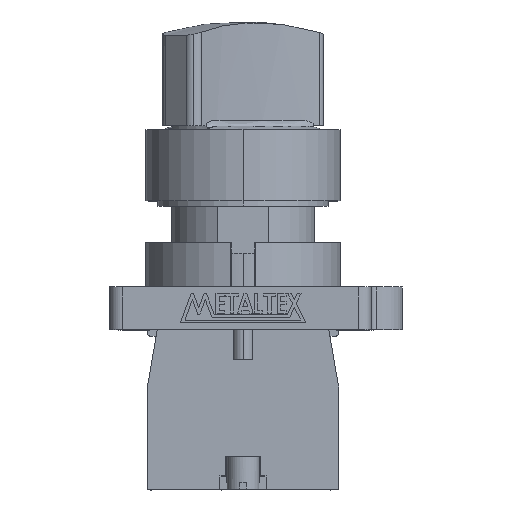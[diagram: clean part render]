
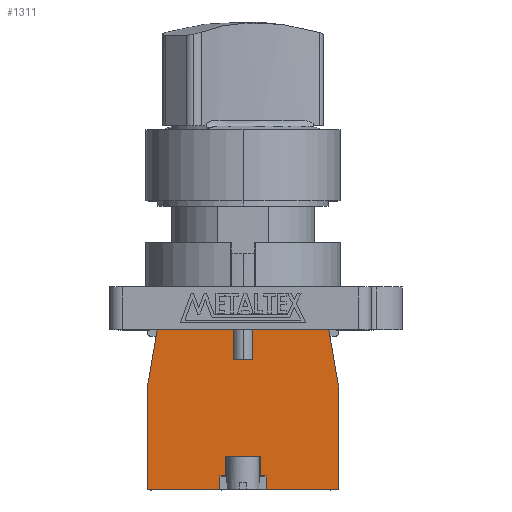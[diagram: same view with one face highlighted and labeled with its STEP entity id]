
A CAD part, top view. The second image highlights one B-rep face of the part: STEP entity #1311.
In plain terms, the highlighted planar face has unit normal (0, 0, 1).
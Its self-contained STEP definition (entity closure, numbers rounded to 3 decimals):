
#802 = EDGE_CURVE ( 'NONE', #8731, #8756, #1665, .T. ) ;
#803 = EDGE_CURVE ( 'NONE', #8772, #8681, #1668, .T. ) ;
#804 = EDGE_CURVE ( 'NONE', #8682, #8681, #1671, .T. ) ;
#805 = EDGE_CURVE ( 'NONE', #8682, #8735, #1674, .T. ) ;
#806 = EDGE_CURVE ( 'NONE', #8683, #8734, #1677, .T. ) ;
#807 = EDGE_CURVE ( 'NONE', #8684, #8683, #1680, .T. ) ;
#808 = EDGE_CURVE ( 'NONE', #8768, #8684, #1683, .T. ) ;
#809 = EDGE_CURVE ( 'NONE', #8729, #8758, #1686, .T. ) ;
#810 = EDGE_CURVE ( 'NONE', #8759, #8725, #1689, .T. ) ;
#814 = EDGE_CURVE ( 'NONE', #8771, #8826, #1701, .T. ) ;
#867 = EDGE_CURVE ( 'NONE', #8725, #8767, #1860, .T. ) ;
#872 = EDGE_CURVE ( 'NONE', #8731, #8729, #1875, .T. ) ;
#878 = EDGE_CURVE ( 'NONE', #8735, #8734, #1893, .T. ) ;
#912 = EDGE_CURVE ( 'NONE', #8827, #8756, #1995, .T. ) ;
#916 = EDGE_CURVE ( 'NONE', #8758, #8759, #2007, .T. ) ;
#928 = EDGE_CURVE ( 'NONE', #8767, #8768, #2043, .T. ) ;
#931 = EDGE_CURVE ( 'NONE', #8772, #8771, #2052, .T. ) ;
#987 = EDGE_CURVE ( 'NONE', #8826, #8827, #2516, .T. ) ;
#1311 = ADVANCED_FACE ( 'NONE', ( #10464 ), #11859, .T. ) ;
#1665 = LINE ( 'NONE', #1666, #10836 ) ;
#1666 = CARTESIAN_POINT ( 'NONE',  ( 1.5, 19.6, 7.45 ) ) ;
#1667 = DIRECTION ( 'NONE',  ( 0., 1., 0. ) ) ;
#1668 = LINE ( 'NONE', #1669, #10811 ) ;
#1669 = CARTESIAN_POINT ( 'NONE',  ( 3.5, 0., 7.45 ) ) ;
#1670 = DIRECTION ( 'NONE',  ( 0., 1., 0. ) ) ;
#1671 = LINE ( 'NONE', #1672, #11088 ) ;
#1672 = CARTESIAN_POINT ( 'NONE',  ( 0., 2., 7.45 ) ) ;
#1673 = DIRECTION ( 'NONE',  ( 1., 0., 0. ) ) ;
#1674 = LINE ( 'NONE', #1675, #10421 ) ;
#1675 = CARTESIAN_POINT ( 'NONE',  ( 2.6, 0., 7.45 ) ) ;
#1676 = DIRECTION ( 'NONE',  ( 0., 1., 0. ) ) ;
#1677 = LINE ( 'NONE', #1678, #10328 ) ;
#1678 = CARTESIAN_POINT ( 'NONE',  ( -2.6, 0., 7.45 ) ) ;
#1679 = DIRECTION ( 'NONE',  ( 0., 1., 0. ) ) ;
#1680 = LINE ( 'NONE', #1681, #10212 ) ;
#1681 = CARTESIAN_POINT ( 'NONE',  ( 0., 2., 7.45 ) ) ;
#1682 = DIRECTION ( 'NONE',  ( 1., 0., 0. ) ) ;
#1683 = LINE ( 'NONE', #1684, #10292 ) ;
#1684 = CARTESIAN_POINT ( 'NONE',  ( -3.5, 0., 7.45 ) ) ;
#1685 = DIRECTION ( 'NONE',  ( 0., 1., 0. ) ) ;
#1686 = LINE ( 'NONE', #1687, #10178 ) ;
#1687 = CARTESIAN_POINT ( 'NONE',  ( -1.5, 19.6, 7.45 ) ) ;
#1688 = DIRECTION ( 'NONE',  ( 0., 1., 0. ) ) ;
#1689 = LINE ( 'NONE', #1690, #11271 ) ;
#1690 = CARTESIAN_POINT ( 'NONE',  ( -13., 24.2, 7.45 ) ) ;
#1691 = DIRECTION ( 'NONE',  ( -0.17, -0.985, 0. ) ) ;
#1701 = LINE ( 'NONE', #1702, #10311 ) ;
#1702 = CARTESIAN_POINT ( 'NONE',  ( 14.5, 0., 7.45 ) ) ;
#1703 = DIRECTION ( 'NONE',  ( 0., 1., 0. ) ) ;
#1860 = LINE ( 'NONE', #1861, #10718 ) ;
#1861 = CARTESIAN_POINT ( 'NONE',  ( -14.5, 15.5, 7.45 ) ) ;
#1862 = DIRECTION ( 'NONE',  ( 0., -1., 0. ) ) ;
#1875 = LINE ( 'NONE', #1876, #10780 ) ;
#1876 = CARTESIAN_POINT ( 'NONE',  ( 0., 19.6, 7.45 ) ) ;
#1877 = DIRECTION ( 'NONE',  ( -1., 0., 0. ) ) ;
#1893 = LINE ( 'NONE', #1894, #10284 ) ;
#1894 = CARTESIAN_POINT ( 'NONE',  ( 0., 5., 7.45 ) ) ;
#1895 = DIRECTION ( 'NONE',  ( -1., 0., 0. ) ) ;
#1995 = LINE ( 'NONE', #1996, #10342 ) ;
#1996 = CARTESIAN_POINT ( 'NONE',  ( 13., 24.2, 7.45 ) ) ;
#1997 = DIRECTION ( 'NONE',  ( -1., 0., 0. ) ) ;
#2007 = LINE ( 'NONE', #2008, #11113 ) ;
#2008 = CARTESIAN_POINT ( 'NONE',  ( 13., 24.2, 7.45 ) ) ;
#2009 = DIRECTION ( 'NONE',  ( -1., 0., 0. ) ) ;
#2043 = LINE ( 'NONE', #2044, #10568 ) ;
#2044 = CARTESIAN_POINT ( 'NONE',  ( -14.5, 0., 7.45 ) ) ;
#2045 = DIRECTION ( 'NONE',  ( 1., 0., 0. ) ) ;
#2052 = LINE ( 'NONE', #2053, #10533 ) ;
#2053 = CARTESIAN_POINT ( 'NONE',  ( -14.5, 0., 7.45 ) ) ;
#2054 = DIRECTION ( 'NONE',  ( 1., 0., 0. ) ) ;
#2516 = LINE ( 'NONE', #2517, #10636 ) ;
#2517 = CARTESIAN_POINT ( 'NONE',  ( 14.5, 15.5, 7.45 ) ) ;
#2518 = DIRECTION ( 'NONE',  ( -0.17, 0.985, 0. ) ) ;
#8265 = ORIENTED_EDGE ( 'NONE', *, *, #810, .T. ) ;
#8266 = ORIENTED_EDGE ( 'NONE', *, *, #809, .T. ) ;
#8267 = ORIENTED_EDGE ( 'NONE', *, *, #867, .T. ) ;
#8268 = ORIENTED_EDGE ( 'NONE', *, *, #916, .T. ) ;
#8269 = ORIENTED_EDGE ( 'NONE', *, *, #928, .T. ) ;
#8270 = ORIENTED_EDGE ( 'NONE', *, *, #808, .T. ) ;
#8271 = ORIENTED_EDGE ( 'NONE', *, *, #806, .T. ) ;
#8272 = ORIENTED_EDGE ( 'NONE', *, *, #807, .T. ) ;
#8273 = ORIENTED_EDGE ( 'NONE', *, *, #878, .F. ) ;
#8274 = ORIENTED_EDGE ( 'NONE', *, *, #805, .F. ) ;
#8275 = ORIENTED_EDGE ( 'NONE', *, *, #803, .F. ) ;
#8276 = ORIENTED_EDGE ( 'NONE', *, *, #804, .T. ) ;
#8277 = ORIENTED_EDGE ( 'NONE', *, *, #931, .T. ) ;
#8278 = ORIENTED_EDGE ( 'NONE', *, *, #987, .T. ) ;
#8279 = ORIENTED_EDGE ( 'NONE', *, *, #814, .T. ) ;
#8280 = ORIENTED_EDGE ( 'NONE', *, *, #912, .T. ) ;
#8281 = ORIENTED_EDGE ( 'NONE', *, *, #802, .F. ) ;
#8283 = ORIENTED_EDGE ( 'NONE', *, *, #872, .T. ) ;
#8681 = VERTEX_POINT ( 'NONE', #13550 ) ;
#8682 = VERTEX_POINT ( 'NONE', #13551 ) ;
#8683 = VERTEX_POINT ( 'NONE', #13552 ) ;
#8684 = VERTEX_POINT ( 'NONE', #13553 ) ;
#8725 = VERTEX_POINT ( 'NONE', #13594 ) ;
#8729 = VERTEX_POINT ( 'NONE', #13598 ) ;
#8731 = VERTEX_POINT ( 'NONE', #13600 ) ;
#8734 = VERTEX_POINT ( 'NONE', #13603 ) ;
#8735 = VERTEX_POINT ( 'NONE', #13604 ) ;
#8756 = VERTEX_POINT ( 'NONE', #13625 ) ;
#8758 = VERTEX_POINT ( 'NONE', #13627 ) ;
#8759 = VERTEX_POINT ( 'NONE', #13628 ) ;
#8767 = VERTEX_POINT ( 'NONE', #13636 ) ;
#8768 = VERTEX_POINT ( 'NONE', #13637 ) ;
#8771 = VERTEX_POINT ( 'NONE', #13640 ) ;
#8772 = VERTEX_POINT ( 'NONE', #13641 ) ;
#8826 = VERTEX_POINT ( 'NONE', #13695 ) ;
#8827 = VERTEX_POINT ( 'NONE', #13696 ) ;
#9862 = EDGE_LOOP ( 'NONE', ( #8266, #8268, #8265, #8267, #8269, #8270, #8272, #8271, #8273, #8274, #8276, #8275, #8277, #8279, #8278, #8280, #8281, #8283 ) ) ;
#10178 = VECTOR ( 'NONE', #1688, 1000. ) ;
#10212 = VECTOR ( 'NONE', #1682, 1000. ) ;
#10284 = VECTOR ( 'NONE', #1895, 1000. ) ;
#10292 = VECTOR ( 'NONE', #1685, 1000. ) ;
#10311 = VECTOR ( 'NONE', #1703, 1000. ) ;
#10328 = VECTOR ( 'NONE', #1679, 1000. ) ;
#10342 = VECTOR ( 'NONE', #1997, 1000. ) ;
#10421 = VECTOR ( 'NONE', #1676, 1000. ) ;
#10458 = AXIS2_PLACEMENT_3D ( 'NONE', #11860, #11861, #11862 ) ;
#10464 = FACE_OUTER_BOUND ( 'NONE', #9862, .T. ) ;
#10533 = VECTOR ( 'NONE', #2054, 1000. ) ;
#10568 = VECTOR ( 'NONE', #2045, 1000. ) ;
#10636 = VECTOR ( 'NONE', #2518, 1000. ) ;
#10718 = VECTOR ( 'NONE', #1862, 1000. ) ;
#10780 = VECTOR ( 'NONE', #1877, 1000. ) ;
#10811 = VECTOR ( 'NONE', #1670, 1000. ) ;
#10836 = VECTOR ( 'NONE', #1667, 1000. ) ;
#11088 = VECTOR ( 'NONE', #1673, 1000. ) ;
#11113 = VECTOR ( 'NONE', #2009, 1000. ) ;
#11271 = VECTOR ( 'NONE', #1691, 1000. ) ;
#11859 = PLANE ( 'NONE',  #10458 ) ;
#11860 = CARTESIAN_POINT ( 'NONE',  ( 0., 0., 7.45 ) ) ;
#11861 = DIRECTION ( 'NONE',  ( 0., 0., 1. ) ) ;
#11862 = DIRECTION ( 'NONE',  ( 1., 0., 0. ) ) ;
#13550 = CARTESIAN_POINT ( 'NONE',  ( 3.5, 2., 7.45 ) ) ;
#13551 = CARTESIAN_POINT ( 'NONE',  ( 2.6, 2., 7.45 ) ) ;
#13552 = CARTESIAN_POINT ( 'NONE',  ( -2.6, 2., 7.45 ) ) ;
#13553 = CARTESIAN_POINT ( 'NONE',  ( -3.5, 2., 7.45 ) ) ;
#13594 = CARTESIAN_POINT ( 'NONE',  ( -14.5, 15.5, 7.45 ) ) ;
#13598 = CARTESIAN_POINT ( 'NONE',  ( -1.5, 19.6, 7.45 ) ) ;
#13600 = CARTESIAN_POINT ( 'NONE',  ( 1.5, 19.6, 7.45 ) ) ;
#13603 = CARTESIAN_POINT ( 'NONE',  ( -2.6, 5., 7.45 ) ) ;
#13604 = CARTESIAN_POINT ( 'NONE',  ( 2.6, 5., 7.45 ) ) ;
#13625 = CARTESIAN_POINT ( 'NONE',  ( 1.5, 24.2, 7.45 ) ) ;
#13627 = CARTESIAN_POINT ( 'NONE',  ( -1.5, 24.2, 7.45 ) ) ;
#13628 = CARTESIAN_POINT ( 'NONE',  ( -13., 24.2, 7.45 ) ) ;
#13636 = CARTESIAN_POINT ( 'NONE',  ( -14.5, 0., 7.45 ) ) ;
#13637 = CARTESIAN_POINT ( 'NONE',  ( -3.5, 0., 7.45 ) ) ;
#13640 = CARTESIAN_POINT ( 'NONE',  ( 14.5, 0., 7.45 ) ) ;
#13641 = CARTESIAN_POINT ( 'NONE',  ( 3.5, 0., 7.45 ) ) ;
#13695 = CARTESIAN_POINT ( 'NONE',  ( 14.5, 15.5, 7.45 ) ) ;
#13696 = CARTESIAN_POINT ( 'NONE',  ( 13., 24.2, 7.45 ) ) ;
